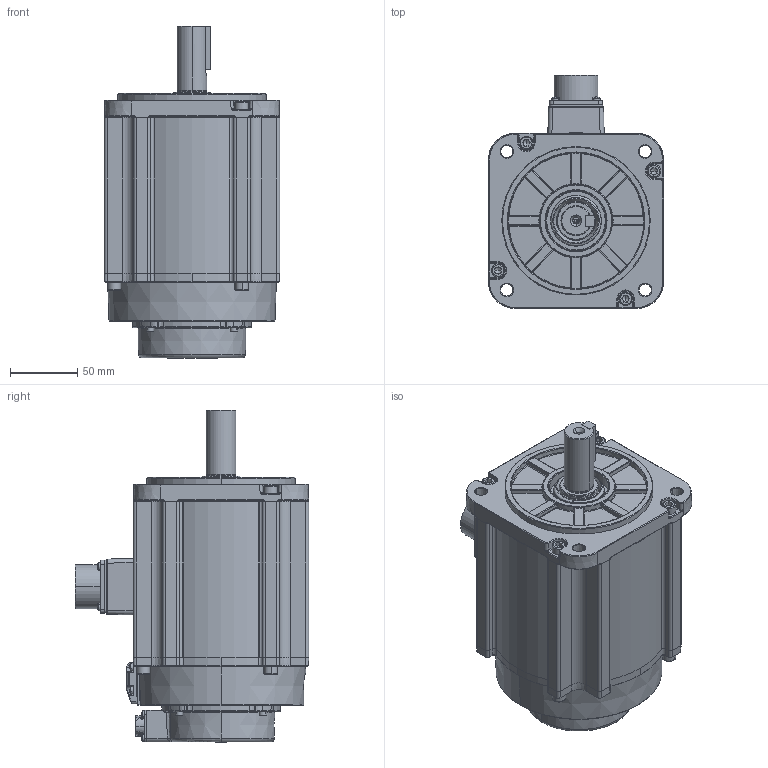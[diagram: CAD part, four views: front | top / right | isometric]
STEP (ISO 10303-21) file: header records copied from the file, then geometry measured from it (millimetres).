
FILE_DESCRIPTION (( 'STEP AP203' ), '1' );
FILE_NAME ('4031313-[][][][]_130µç»ú_DM1M-13A130[]8E_A0.STEP', '2020-06-22T00:58:17', ( '' ), ( '' ), 'SwSTEP 2.0', 'SolidWorks 2018', '' );
FILE_SCHEMA (( 'CONFIG_CONTROL_DESIGN' ));
Length unit declared in the file: millimetre
Products named in the file (1): 4031313-[][][][]_130萇儂_DM1M-13A130[]8E_A0
Bounding box: 130 x 173 x 246.1 mm (x, y, z)
Surface area: 167769.4 mm2 (no closed solid volume)
Topology: 0 solids, 62 shells, 1444 faces, 4461 edges, 2894 vertices
Faces by surface type: plane 480, cylinder 351, cone 214, bspline 205, torus 164, sphere 30
Entity records: 56813 total; most frequent: CARTESIAN_POINT 19067, DIRECTION 7911, ORIENTED_EDGE 7355, EDGE_CURVE 4403, AXIS2_PLACEMENT_3D 3014, VERTEX_POINT 2892, LINE 1883, VECTOR 1883
